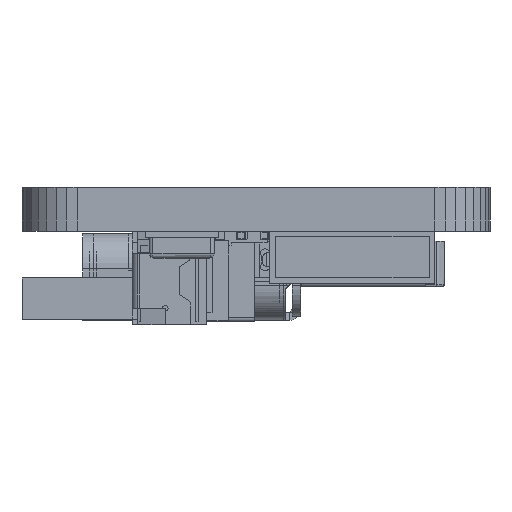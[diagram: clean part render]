
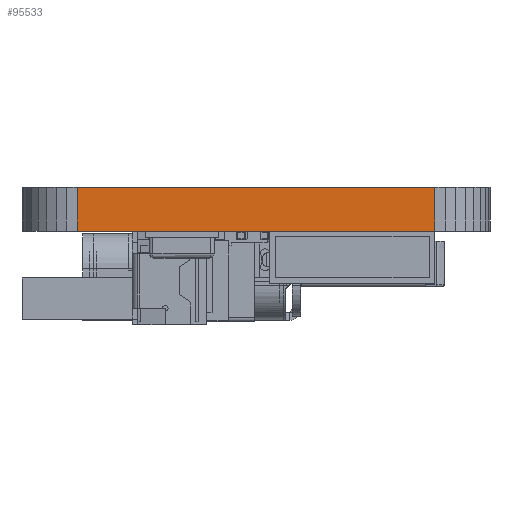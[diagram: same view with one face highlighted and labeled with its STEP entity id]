
A CAD part, left-side view. The second image highlights one B-rep face of the part: STEP entity #95533.
In plain terms, the highlighted planar face has unit normal (-1, -0.001, 0) as drawn and (0.001, 1, 0) by its records, which use the part's own axes.
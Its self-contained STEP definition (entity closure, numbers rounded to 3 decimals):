
#35663=DIRECTION('',(-1.,0.001,0.));
#35664=VECTOR('',#35663,13.);
#35665=CARTESIAN_POINT('',(15.,94.,0.));
#35666=LINE('',#35665,#35664);
#37913=DIRECTION('',(0.,0.,-1.));
#37914=VECTOR('',#37913,1.6);
#37915=CARTESIAN_POINT('',(2.,94.01,0.));
#37916=LINE('',#37915,#37914);
#37917=DIRECTION('',(1.,-0.001,0.));
#37918=VECTOR('',#37917,13.);
#37919=CARTESIAN_POINT('',(2.,94.01,-1.6));
#37920=LINE('',#37919,#37918);
#37921=DIRECTION('',(0.,0.,-1.));
#37922=VECTOR('',#37921,1.6);
#37923=CARTESIAN_POINT('',(15.,94.,0.));
#37924=LINE('',#37923,#37922);
#80912=CARTESIAN_POINT('',(15.,94.,0.));
#80913=VERTEX_POINT('',#80912);
#80914=CARTESIAN_POINT('',(2.,94.01,0.));
#80915=VERTEX_POINT('',#80914);
#81208=CARTESIAN_POINT('',(15.,94.,-1.6));
#81209=VERTEX_POINT('',#81208);
#81210=CARTESIAN_POINT('',(2.,94.01,-1.6));
#81211=VERTEX_POINT('',#81210);
#95520=CARTESIAN_POINT('',(15.,94.,-1.601));
#95521=DIRECTION('',(-0.001,-1.,0.));
#95522=DIRECTION('',(-1.,0.001,0.));
#95523=AXIS2_PLACEMENT_3D('',#95520,#95521,#95522);
#95524=PLANE('',#95523);
#95526=ORIENTED_EDGE('',*,*,#95525,.F.);
#95527=ORIENTED_EDGE('',*,*,#92890,.T.);
#95528=ORIENTED_EDGE('',*,*,#95504,.T.);
#95530=ORIENTED_EDGE('',*,*,#95529,.T.);
#95531=EDGE_LOOP('',(#95526,#95527,#95528,#95530));
#95532=FACE_OUTER_BOUND('',#95531,.F.);
#95533=ADVANCED_FACE('',(#95532),#95524,.F.);
#92890=EDGE_CURVE('',#80913,#80915,#35666,.T.);
#95504=EDGE_CURVE('',#80915,#81211,#37916,.T.);
#95525=EDGE_CURVE('',#80913,#81209,#37924,.T.);
#95529=EDGE_CURVE('',#81211,#81209,#37920,.T.);
